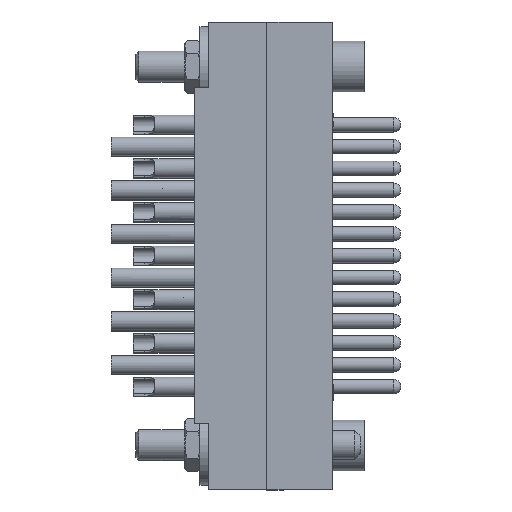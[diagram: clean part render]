
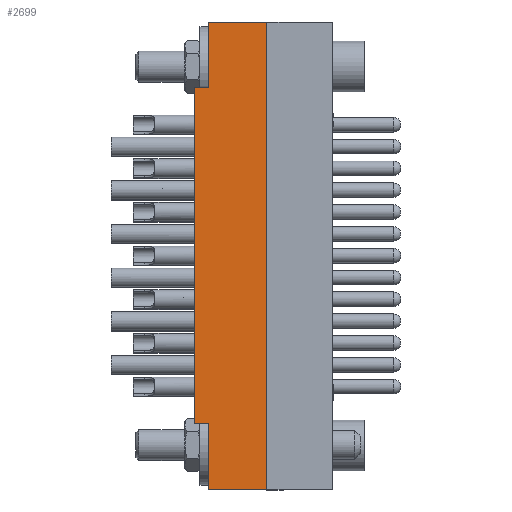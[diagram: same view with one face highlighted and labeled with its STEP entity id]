
A CAD part, top view. The second image highlights one B-rep face of the part: STEP entity #2699.
In plain terms, the highlighted planar face has unit normal (0, 0, 1) as drawn and (-1, 0, 0) by its records, which use the part's own axes.
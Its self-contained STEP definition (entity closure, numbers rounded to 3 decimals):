
#2699=ADVANCED_FACE('',(#6081),#6082,.F.);
#6081=FACE_OUTER_BOUND('',#10780,.T.);
#6082=PLANE('',#10781);
#10780=EDGE_LOOP('',(#15681,#15682,#15683,#15684,#15685,#15686,#15687,#15688));
#10781=AXIS2_PLACEMENT_3D('',#15689,#15690,#15691);
#15681=ORIENTED_EDGE('',*,*,#26928,.F.);
#15682=ORIENTED_EDGE('',*,*,#26929,.F.);
#15683=ORIENTED_EDGE('',*,*,#26817,.F.);
#15684=ORIENTED_EDGE('',*,*,#26930,.T.);
#15685=ORIENTED_EDGE('',*,*,#26931,.F.);
#15686=ORIENTED_EDGE('',*,*,#26932,.T.);
#15687=ORIENTED_EDGE('',*,*,#26933,.T.);
#15688=ORIENTED_EDGE('',*,*,#26934,.F.);
#15689=CARTESIAN_POINT('',(5.341,1.4,4.809));
#15690=DIRECTION('',(1.0,0.0,0.0));
#15691=DIRECTION('',(0.0,0.0,-1.0));
#26817=EDGE_CURVE('',#31565,#31566,#31567,.T.);
#26928=EDGE_CURVE('',#31741,#31742,#31743,.T.);
#26929=EDGE_CURVE('',#31566,#31741,#31744,.T.);
#26930=EDGE_CURVE('',#31565,#31745,#31746,.T.);
#26931=EDGE_CURVE('',#31747,#31745,#31748,.T.);
#26932=EDGE_CURVE('',#31747,#31749,#31750,.T.);
#26933=EDGE_CURVE('',#31749,#31751,#31752,.T.);
#26934=EDGE_CURVE('',#31742,#31751,#31753,.T.);
#31565=VERTEX_POINT('',#38693);
#31566=VERTEX_POINT('',#38694);
#31567=LINE('',#38695,#38696);
#31741=VERTEX_POINT('',#39186);
#31742=VERTEX_POINT('',#39187);
#31743=LINE('',#39188,#39189);
#31744=LINE('',#39190,#39191);
#31745=VERTEX_POINT('',#39192);
#31746=LINE('',#39193,#39194);
#31747=VERTEX_POINT('',#39195);
#31748=LINE('',#39196,#39197);
#31749=VERTEX_POINT('',#39198);
#31750=LINE('',#39199,#39200);
#31751=VERTEX_POINT('',#39201);
#31752=LINE('',#39202,#39203);
#31753=LINE('',#39204,#39205);
#38693=CARTESIAN_POINT('',(5.341,1.4,4.809));
#38694=CARTESIAN_POINT('',(5.341,-30.7,4.809));
#38695=CARTESIAN_POINT('',(5.341,1.4,4.809));
#38696=VECTOR('',#49472,1.0);
#39186=CARTESIAN_POINT('',(5.341,-30.7,0.809));
#39187=CARTESIAN_POINT('',(5.341,-26.2,0.809));
#39188=CARTESIAN_POINT('',(5.341,-30.7,0.809));
#39189=VECTOR('',#49594,1.0);
#39190=CARTESIAN_POINT('',(5.341,-30.7,4.809));
#39191=VECTOR('',#49595,1.0);
#39192=CARTESIAN_POINT('',(5.341,1.4,0.809));
#39193=CARTESIAN_POINT('',(5.341,1.4,4.809));
#39194=VECTOR('',#49596,1.0);
#39195=CARTESIAN_POINT('',(5.341,-3.1,0.809));
#39196=CARTESIAN_POINT('',(5.341,-3.1,0.809));
#39197=VECTOR('',#49597,1.0);
#39198=CARTESIAN_POINT('',(5.341,-3.1,-0.191));
#39199=CARTESIAN_POINT('',(5.341,-3.1,0.809));
#39200=VECTOR('',#49598,1.0);
#39201=CARTESIAN_POINT('',(5.341,-26.2,-0.191));
#39202=CARTESIAN_POINT('',(5.341,1.4,-0.191));
#39203=VECTOR('',#49599,1.0);
#39204=CARTESIAN_POINT('',(5.341,-26.2,0.809));
#39205=VECTOR('',#49600,1.0);
#49472=DIRECTION('',(0.0,-1.0,0.0));
#49594=DIRECTION('',(0.0,1.0,0.0));
#49595=DIRECTION('',(0.0,0.0,-1.0));
#49596=DIRECTION('',(0.0,0.0,-1.0));
#49597=DIRECTION('',(0.0,1.0,0.0));
#49598=DIRECTION('',(0.0,0.0,-1.0));
#49599=DIRECTION('',(0.0,-1.0,0.0));
#49600=DIRECTION('',(0.0,0.0,-1.0));
